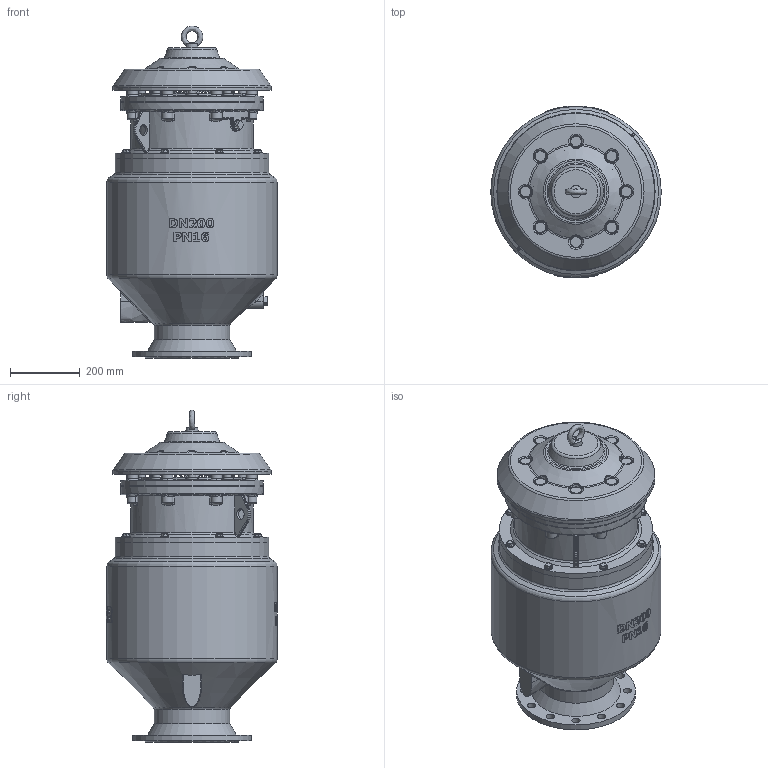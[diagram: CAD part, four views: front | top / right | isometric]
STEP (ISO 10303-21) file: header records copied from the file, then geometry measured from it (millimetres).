
FILE_DESCRIPTION(('STEP AP203'), '1');
FILE_NAME('Âîçäóøíûé êëàïàí FLOWJET SR', '', ('UNSPECIFIED'), ('UNSPECIFIED'), 'C3D Converter', 'C3D Toolkit', '');
FILE_SCHEMA(('CONFIG_CONTROL_DESIGN'));
Length unit declared in the file: millimetre
Assembly tree (70 placements, depth 2):
  (unnamed)
    (unnamed)
    (unnamed)
    (unnamed)
    (unnamed)
    (unnamed)
    (unnamed)
    (unnamed)
    (unnamed)
    (unnamed)
    (unnamed)
    (unnamed)
    (unnamed)  x8
    (unnamed)
    (unnamed)  x8
    (unnamed)  x8
    (unnamed)  x8
    (unnamed)  x8
    (unnamed)  x8
    (unnamed)  x8
    (unnamed)  x2
Bounding box: 488 x 492 x 949.98 mm (x, y, z)
Volume: 15067010.1 mm3; surface area: 4977183.2 mm2
Topology: 70 solids, 72 shells, 2171 faces, 5419 edges, 3430 vertices
Faces by surface type: plane 708, bspline 532, cylinder 447, torus 209, extrusion 150, cone 116, sphere 9
Full cylindrical faces by diameter (mm): 9.026 x8, 10 x32, 10.5 x8, 11 x8, 11.026 x8, 12 x16, 13 x10, 16 x55, 18 x8, 20 x10, 21 x1, 21.3 x3, 22 x8, 23 x12, 24 x17, 25.6 x8, 30 x4, 32 x10, 48 x1, 54.823 x1, 192 x1, 200 x2, 216 x1, 240 x1, 242 x1, 256 x1, 282.667 x1, 288 x2, 304 x2, 308 x3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
Entity records: 149565 total; most frequent: CARTESIAN_POINT 110002, ORIENTED_EDGE 7922, DIRECTION 5476, EDGE_CURVE 3968, VERTEX_POINT 2674, AXIS2_PLACEMENT_3D 2253, EDGE_LOOP 2248, B_SPLINE_CURVE_WITH_KNOTS 2064
